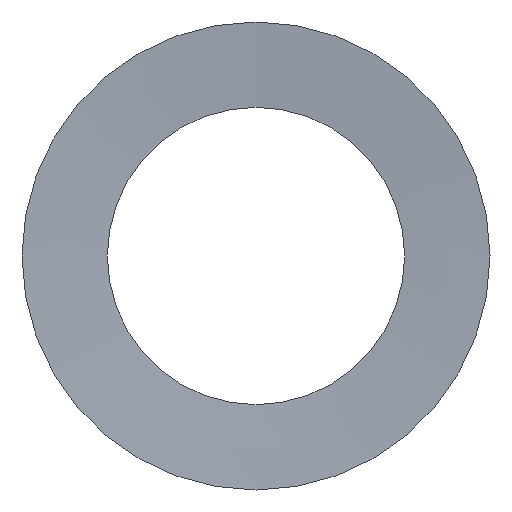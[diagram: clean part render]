
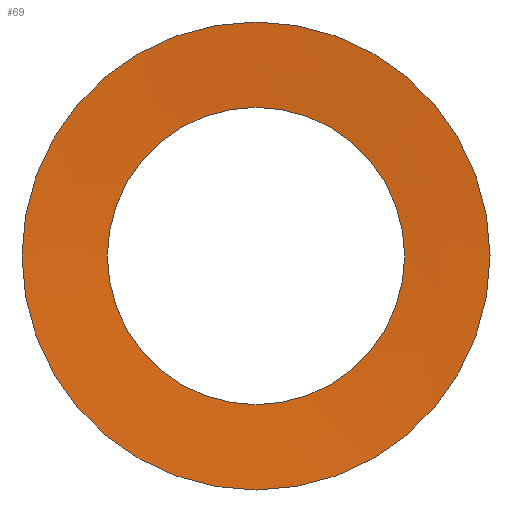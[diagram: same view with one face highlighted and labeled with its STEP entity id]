
A CAD part, front view. The second image highlights one B-rep face of the part: STEP entity #69.
In plain terms, the highlighted conical face has half-angle 86.062 degrees and reference radius 65 mm.
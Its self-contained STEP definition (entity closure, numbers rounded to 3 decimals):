
#19=FACE_OUTER_BOUND('',#23,.T.);
#23=EDGE_LOOP('',(#57,#58,#59,#60));
#27=LINE('',#137,#31);
#31=VECTOR('',#118,65.);
#35=CIRCLE('',#98,50.5);
#36=CIRCLE('',#100,79.5);
#39=VERTEX_POINT('',#132);
#40=VERTEX_POINT('',#136);
#45=EDGE_CURVE('',#39,#39,#35,.T.);
#46=EDGE_CURVE('',#39,#40,#27,.T.);
#47=EDGE_CURVE('',#40,#40,#36,.T.);
#57=ORIENTED_EDGE('',*,*,#45,.T.);
#58=ORIENTED_EDGE('',*,*,#46,.T.);
#59=ORIENTED_EDGE('',*,*,#47,.F.);
#60=ORIENTED_EDGE('',*,*,#46,.F.);
#66=CONICAL_SURFACE('',#99,65.,1.502);
#69=ADVANCED_FACE('',(#19),#66,.F.);
#98=AXIS2_PLACEMENT_3D('',#134,#114,#115);
#99=AXIS2_PLACEMENT_3D('',#135,#116,#117);
#100=AXIS2_PLACEMENT_3D('',#138,#119,#120);
#114=DIRECTION('center_axis',(0.,1.,0.));
#115=DIRECTION('ref_axis',(1.,0.,0.));
#116=DIRECTION('center_axis',(0.,-1.,0.));
#117=DIRECTION('ref_axis',(0.,0.,-1.));
#118=DIRECTION('',(0.,-0.069,0.998));
#119=DIRECTION('center_axis',(0.,1.,0.));
#120=DIRECTION('ref_axis',(1.,0.,0.));
#132=CARTESIAN_POINT('',(0.,1.996,50.5));
#134=CARTESIAN_POINT('Origin',(0.,1.996,0.));
#135=CARTESIAN_POINT('Origin',(0.,0.998,0.));
#136=CARTESIAN_POINT('',(0.,0.,79.5));
#137=CARTESIAN_POINT('',(0.,0.998,65.));
#138=CARTESIAN_POINT('Origin',(0.,0.,0.));
